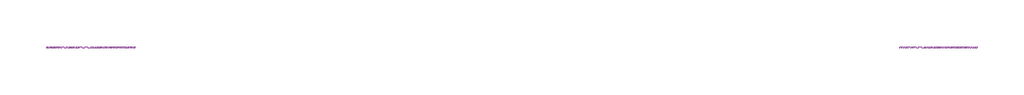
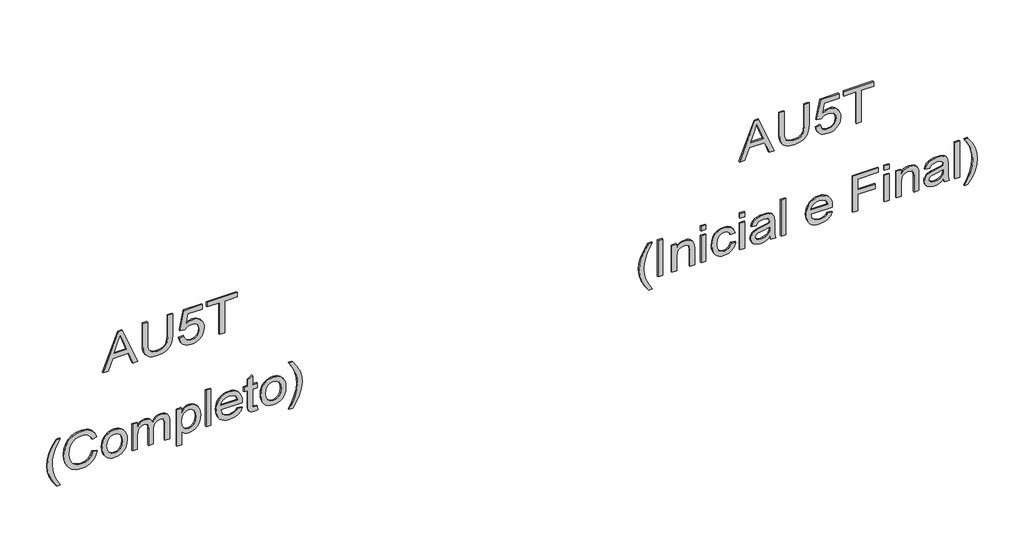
# One storey, part 6 of 14: 2 proxies.
"""IFC4 building model written with IfcOpenShell, lengths in millimetres."""

from ifc_helpers import new_model, si_unit, frame, origin, place, context, project, spatial, polyline, outline, extrude, element, save

model = new_model("IFC4")

# Units and contexts
model_context = context("Model", 3, world=origin())
ifc_project = project(units=[si_unit("LENGTHUNIT", "METRE", prefix="MILLI")], contexts=[model_context])

# Site, building, storey
site = spatial("IfcSite", under=ifc_project)
building = spatial("IfcBuilding", under=site)
storey = spatial("IfcBuildingStorey", under=building, Name="04 - Marelli - Planta Baixa - Painéis de Vidro", Elevation=36000.0)

# Proxies
placement = place(None, origin())
element("IfcBuildingElementProxy", 1, Name="300mm Arial", ObjectType="300mm Arial", at=placement, inside=storey, context=model_context, shape_type="SweptSolid", body=[
    extrude(outline(polyline([(42065.9244535, 43310.1721595), (42065.9244535, 43349.9769914), (42160.1022443, 43384.4107462), (42160.1022443, 43508.5341313), (42065.9244535, 43543.0414625), (42065.9244535, 43582.8462944), (42367.293384, 43462.5488819), (42367.293384, 43430.469572), (42065.9244535, 43310.1721595)]), holes=[polyline([(42197.7733606, 43398.2431092), (42278.3395176, 43427.7472452), (42329.6222677, 43446.5092269), (42271.8647944, 43467.6256535), (42197.7733606, 43494.7753447), (42197.7733606, 43398.2431092)])]), frame((0.0, 8778.3159498, 0.0), z_axis=(0.0, 1.0, 0.0), x_axis=(0.0, 0.0, 1.0)), (0.0, 0.0, 1.0), 10.0),
    extrude(outline(polyline([(42367.293384, 43820.8659452), (42194.7567282, 43820.8659452), (42147.5942565, 43816.1018734), (42130.8556257, 43810.1467836), (42118.6787316, 43801.8096579), (42110.0197092, 43790.676629), (42103.8346931, 43776.3338297), (42098.8866803, 43738.0189199), (42101.3882779, 43713.8490728), (42108.8930706, 43693.7259277), (42121.0055853, 43678.293278), (42137.3303488, 43668.1949172), (42160.9023876, 43662.621505), (42194.7567282, 43660.7637009), (42367.293384, 43660.7637009), (42367.293384, 43623.0925846), (42193.4323531, 43623.0925846), (42150.6568741, 43625.9528671), (42117.9797559, 43634.5337147), (42093.6167707, 43649.8008175), (42075.783691, 43672.7198658), (42064.8575957, 43703.3000566), (42061.215564, 43741.5505871), (42065.4002217, 43780.6564432), (42077.9541948, 43811.4481662), (42097.176029, 43833.9809384), (42121.3642702, 43848.3099421), (42152.7170132, 43855.9802817), (42193.4323531, 43858.5370615), (42367.293384, 43858.5370615), (42367.293384, 43820.8659452)])), frame((0.0, 8778.3159498, 0.0), z_axis=(0.0, 1.0, 0.0), x_axis=(0.0, 0.0, 1.0)), (0.0, 0.0, 1.0), 10.0),
    extrude(outline(polyline([(42145.9755757, 43910.3348465), (42111.4222593, 43919.5226993), (42096.9805917, 43928.2484004), (42084.4289179, 43939.7286179), (42074.2730756, 43953.526492), (42067.0189025, 43969.2051627), (42061.215564, 44006.2048944), (42063.4734397, 44029.6941598), (42070.247067, 44050.571463), (42081.5364457, 44068.8368041), (42097.3415759, 44084.490183), (42112.7742256, 44094.8230685), (42129.5680387, 44102.203701), (42167.239155, 44108.1082071), (42187.5002559, 44106.4688329), (42205.8299763, 44101.5507105), (42222.2283162, 44093.3538398), (42236.6952757, 44081.8782208), (42248.5088863, 44068.0159674), (42256.9471795, 44052.6591933), (42262.0101555, 44035.8078987), (42263.6978141, 44017.4620835), (42258.2531606, 43989.2639285), (42241.9192, 43962.3533606), (42324.9133781, 43978.466592), (42324.9133781, 44093.9815385), (42362.5844944, 44093.9815385), (42362.5844944, 43948.0059628), (42207.1911397, 43915.043736), (42202.4822501, 43952.7148523), (42219.4783983, 43973.868067), (42224.389623, 43988.6661203), (42226.0266978, 44006.9406584), (42221.9248136, 44034.8353107), (42209.6191609, 44054.6549532), (42190.2317797, 44066.4915564), (42164.8847102, 44070.4370908), (42137.9649452, 44066.2248419), (42116.9496863, 44053.5880954), (42103.4024318, 44033.3545856), (42098.8866803, 44006.3520472), (42102.1332389, 43984.1503688), (42111.8729147, 43966.9886737), (42128.0689196, 43954.9221443), (42150.6844652, 43948.0059628), (42145.9755757, 43910.3348465)])), frame((0.0, 8778.3159498, 0.0), z_axis=(0.0, 1.0, 0.0), x_axis=(0.0, 0.0, 1.0)), (0.0, 0.0, 1.0), 10.0),
    extrude(outline(polyline([(42065.9244535, 44230.5393351), (42065.9244535, 44268.2104514), (42329.6222677, 44268.2104514), (42329.6222677, 44367.0971317), (42367.293384, 44367.0971317), (42367.293384, 44131.6526548), (42329.6222677, 44131.6526548), (42329.6222677, 44230.5393351), (42065.9244535, 44230.5393351)])), frame((0.0, 8778.3159498, 0.0), z_axis=(0.0, 1.0, 0.0), x_axis=(0.0, 0.0, 1.0)), (0.0, 0.0, 1.0), 10.0),
    extrude(outline(polyline([(41249.3155348, 42945.0124911), (41249.3155348, 42973.2658283), (41297.5540614, 42944.4238799), (41345.8109821, 42923.8224882), (41394.0862969, 42911.4616532), (41442.3800058, 42907.3413748), (41480.2534572, 42909.7142137), (41517.9429677, 42916.8327303), (41575.7740173, 42938.0227332), (41635.4444769, 42973.2658283), (41635.4444769, 42945.0124911), (41584.934279, 42910.321219), (41534.2033518, 42886.0042191), (41489.4137189, 42873.7537486), (41442.600735, 42869.6702585), (41389.2210575, 42875.1333061), (41337.68079, 42891.522449), (41290.2791949, 42915.8210548), (41249.3155348, 42945.0124911)])), frame((0.0, 8778.3159498, 0.0), z_axis=(0.0, 1.0, 0.0), x_axis=(0.0, 0.0, 1.0)), (0.0, 0.0, 1.0), 10.0),
    extrude(outline(polyline([(41441.2027835, 43227.5458634), (41408.9395325, 43215.3597723), (41385.7261786, 43195.576918), (41371.7098746, 43169.3745229), (41367.0377732, 43137.9298094), (41370.4682728, 43110.9548621), (41380.7597717, 43085.9480835), (41397.9858461, 43065.0891743), (41422.2200725, 43050.5578355), (41452.3128197, 43042.0321703), (41487.1144565, 43039.1902819), (41515.5333406, 43041.5907119), (41543.1060961, 43048.792002), (41567.4966724, 43061.9161921), (41586.3690188, 43082.0853225), (41598.4539423, 43108.6647967), (41602.4822501, 43141.0200181), (41598.8494154, 43169.0894144), (41587.9509113, 43191.9348863), (41569.1061561, 43209.777163), (41541.6345681, 43222.8369739), (41550.6108888, 43260.5080902), (41588.4291579, 43243.8706269), (41603.751443, 43232.0685127), (41616.6824952, 43217.9441433), (41626.9510013, 43201.7642333), (41634.2856486, 43183.7954971), (41640.1533665, 43142.4915461), (41635.6192209, 43104.6364888), (41622.0167841, 43070.0923695), (41599.6771499, 43040.9653125), (41568.9314122, 43019.3614423), (41530.9843844, 43005.9797348), (41487.0408801, 43001.5191656), (41445.3782441, 43005.4647), (41406.4747231, 43017.3013032), (41373.3837376, 43036.6886843), (41349.1587083, 43063.2865526), (41334.3146698, 43097.9870218), (41329.3666569, 43141.6822057), (41331.0014325, 43164.1046133), (41335.9057594, 43184.7243992), (41344.0796375, 43203.5415632), (41355.5230668, 43220.5561055), (41370.0796975, 43235.4323337), (41387.5931797, 43247.8345554), (41408.0635135, 43257.7627708), (41431.4906988, 43265.2169797), (41441.2027835, 43227.5458634)])), frame((0.0, 8778.3159498, 0.0), z_axis=(0.0, 1.0, 0.0), x_axis=(0.0, 0.0, 1.0)), (0.0, 0.0, 1.0), 10.0),
    extrude(outline(polyline([(41444.7344506, 43302.888096), (41418.4124939, 43304.596448), (41395.3646869, 43309.7215041), (41375.5910296, 43318.2632642), (41359.0915221, 43330.2217283), (41346.0868936, 43344.9485044), (41336.7978732, 43361.7952005), (41331.224461, 43380.7618166), (41329.3666569, 43401.8483527), (41332.7419742, 43428.4370239), (41342.8679261, 43452.8735855), (41359.1007192, 43473.447386), (41380.7965599, 43488.4477744), (41409.767267, 43497.6080361), (41447.8246594, 43500.6614566), (41472.7049786, 43498.9347105), (41494.7388108, 43493.7544722), (41513.9261561, 43485.1207416), (41530.2670145, 43473.0335188), (41543.3199275, 43458.2239692), (41552.6434368, 43441.4232584), (41558.2375424, 43422.6313862), (41560.1022443, 43401.8483527), (41558.5709355, 43383.0219916), (41553.9770091, 43365.6855526), (41546.3204651, 43349.8390357), (41535.6013034, 43335.4824408), (41518.830483, 43321.222415), (41498.095734, 43311.0366822), (41473.3970566, 43304.9252426), (41444.7344506, 43302.888096)]), holes=[polyline([(41444.808027, 43340.5592123), (41478.8830968, 43344.918614), (41503.1173232, 43357.9968189), (41517.6026768, 43377.6785056), (41522.431128, 43401.8483527), (41517.5842827, 43425.7698795), (41503.0437468, 43445.4423692), (41479.0854319, 43458.6033475), (41445.9852494, 43462.9903403), (41411.1468245, 43458.6309387), (41386.535519, 43445.5527338), (41371.9122097, 43425.9078352), (41367.0377732, 43401.8483527), (41371.8846185, 43377.6785056), (41386.4251544, 43357.9968189), (41410.7145631, 43344.918614), (41444.808027, 43340.5592123)])]), frame((0.0, 8778.3159498, 0.0), z_axis=(0.0, 1.0, 0.0), x_axis=(0.0, 0.0, 1.0)), (0.0, 0.0, 1.0), 10.0),
    extrude(outline(polyline([(41334.0755465, 43543.0414625), (41334.0755465, 43580.7125788), (41445.6909438, 43580.7125788), (41471.6082304, 43582.1473186), (41490.6461236, 43586.4515379), (41504.368122, 43593.9563306), (41514.3377241, 43604.9927905), (41520.407777, 43618.365301), (41522.431128, 43632.8782457), (41519.3961015, 43649.9571673), (41510.2910222, 43661.4626767), (41495.0974958, 43668.0017792), (41473.7971282, 43670.18148), (41334.0755465, 43670.18148), (41334.0755465, 43707.8525963), (41459.008272, 43707.8525963), (41487.7214617, 43711.5406133), (41507.3479662, 43722.6046643), (41518.6603375, 43739.2421276), (41522.431128, 43759.6503812), (41520.9596, 43771.2110729), (41516.5450161, 43781.171478), (41509.7300021, 43788.915394), (41501.0571841, 43793.8266186), (41469.6032735, 43797.3214975), (41334.0755465, 43797.3214975), (41334.0755465, 43834.9926138), (41485.7900813, 43834.9926138), (41518.7615051, 43830.6791975), (41541.8920855, 43817.7389483), (41555.5497046, 43796.7972657), (41560.1022443, 43768.4795491), (41557.366122, 43748.9542122), (41549.1577549, 43731.3602558), (41535.4771432, 43715.6976799), (41516.3242869, 43701.9664844), (41534.7643719, 43693.7627159), (41548.5875379, 43681.2179399), (41557.2235677, 43664.4241268), (41560.1022443, 43643.4732472), (41557.27875, 43623.9203191), (41548.808267, 43606.6114712), (41535.702471, 43592.0433442), (41518.9730372, 43580.7125788), (41555.3933548, 43580.7125788), (41555.3933548, 43543.0414625), (41334.0755465, 43543.0414625)])), frame((0.0, 8778.3159498, 0.0), z_axis=(0.0, 1.0, 0.0), x_axis=(0.0, 0.0, 1.0)), (0.0, 0.0, 1.0), 10.0),
    extrude(outline(polyline([(41249.3155348, 43891.4992883), (41249.3155348, 43929.1704046), (41363.5061061, 43929.1704046), (41349.9956398, 43939.8113913), (41339.0419534, 43953.0459461), (41331.785481, 43968.5061869), (41329.3666569, 43985.8242319), (41332.9810975, 44010.2423993), (41343.8244193, 44033.4649502), (41361.4459669, 44053.4041544), (41385.3950848, 44067.9722814), (41414.2094421, 44076.8842227), (41446.4267078, 44079.8548698), (41476.7217901, 44077.2245136), (41504.4784866, 44069.3334448), (41527.9861461, 44056.2736339), (41545.5341173, 44038.1370516), (41556.4602125, 44015.8617968), (41560.1022443, 43990.3859686), (41557.4994792, 43971.2561049), (41549.6911838, 43955.2164499), (41536.6773583, 43941.4576633), (41518.4580024, 43929.1704046), (41555.3933548, 43929.1704046), (41555.3933548, 43891.4992883), (41249.3155348, 43891.4992883)]), holes=[polyline([(41442.968617, 43929.1704046), (41477.1356573, 43933.5206092), (41502.0872537, 43946.571223), (41517.3451594, 43965.2688254), (41522.431128, 43986.5599959), (41517.6486621, 44007.7683929), (41503.3012642, 44025.7762165), (41479.3521464, 44038.0818693), (41445.7645202, 44042.1837535), (41410.7237602, 44037.9807017), (41386.2412134, 44025.3715464), (41371.8386333, 44006.876279), (41367.0377732, 43985.0148915), (41371.6730864, 43963.5029918), (41385.5790258, 43945.467577), (41409.1970499, 43933.2446977), (41442.968617, 43929.1704046)])]), frame((0.0, 8778.3159498, 0.0), z_axis=(0.0, 1.0, 0.0), x_axis=(0.0, 0.0, 1.0)), (0.0, 0.0, 1.0), 10.0),
    extrude(outline(polyline([(44159.905992, 8778.3159498), (44122.2348757, 8778.3159498), (44122.2348757, 8788.3159498), (44159.905992, 8788.3159498), (44159.905992, 8778.3159498)])), frame((0.0, 0.0, 41334.0755465), z_axis=(0.0, 0.0, 1.0), x_axis=(1.0, 0.0, 0.0)), (0.0, 0.0, 1.0), 301.3689304),
    extrude(outline(polyline([(41400.0, 44371.3645628), (41385.1191733, 44360.8063496), (41374.9104479, 44347.0843511), (41369.0059419, 44330.1985676), (41367.0377732, 44310.1489988), (41371.2868103, 44283.4867512), (41384.0339214, 44261.6253637), (41404.7640718, 44246.4778225), (41432.9622268, 44239.9571141), (41432.9622268, 44409.2564083), (41443.1157698, 44409.4771375), (41469.3687487, 44407.6906106), (41492.5039277, 44402.3310298), (41512.5213067, 44393.3983951), (41529.4208859, 44380.8927065), (41542.8439802, 44365.5727207), (41552.4319047, 44348.1971942), (41558.1846594, 44328.766127), (41560.1022443, 44307.2795193), (41558.1800609, 44285.0778408), (41552.4135106, 44265.0466662), (41542.8025935, 44247.1859953), (41529.3473095, 44231.4958282), (41512.4109422, 44218.7165274), (41492.3567749, 44209.5884554), (41469.1848077, 44204.1116122), (41442.8950406, 44202.2859978), (41417.467497, 44204.0932181), (41395.0427901, 44209.514879), (41375.62092, 44218.5509805), (41359.2018867, 44231.2015227), (41346.1489737, 44246.9330765), (41336.8254644, 44265.2122131), (41331.2313588, 44286.0389326), (41329.3666569, 44309.4132348), (41333.6892704, 44345.0701972), (41346.6571107, 44373.7557958), (41367.4608375, 44394.991784), (41395.2911105, 44408.2999151), (41400.0, 44371.3645628)]), holes=[polyline([(41470.6333431, 44239.9571141), (41491.8693312, 44246.1467287), (41508.3412476, 44260.7424469), (41518.9086579, 44281.7393117), (41522.431128, 44307.1323665), (41518.0165441, 44334.7603043), (41504.7727922, 44356.7228594), (41490.535759, 44366.7108556), (41470.6333431, 44371.8060212), (41470.6333431, 44239.9571141)])]), frame((0.0, 8778.3159498, 0.0), z_axis=(0.0, 1.0, 0.0), x_axis=(0.0, 0.0, 1.0)), (0.0, 0.0, 1.0), 10.0),
    extrude(outline(polyline([(41365.4926689, 44527.199376), (41367.0377732, 44510.791839), (41369.576159, 44497.9527574), (41376.4555523, 44491.5148224), (41395.8797217, 44489.5282597), (41517.7222385, 44489.5282597), (41517.7222385, 44527.199376), (41555.3933548, 44527.199376), (41555.3933548, 44489.5282597), (41631.3241986, 44489.5282597), (41609.1777025, 44451.8571434), (41555.3933548, 44451.8571434), (41555.3933548, 44423.6038061), (41517.7222385, 44423.6038061), (41517.7222385, 44451.8571434), (41394.7760757, 44451.8571434), (41367.7919313, 44452.9975775), (41352.0281878, 44456.4188801), (41342.849532, 44462.6360858), (41335.6206508, 44472.1642295), (41330.9301554, 44485.6471046), (41329.3666569, 44503.7285047), (41332.9719005, 44531.9082655), (41365.4926689, 44527.199376)])), frame((0.0, 8778.3159498, 0.0), z_axis=(0.0, 1.0, 0.0), x_axis=(0.0, 0.0, 1.0)), (0.0, 0.0, 1.0), 10.0),
    extrude(outline(polyline([(41444.7344506, 44555.4527132), (41418.4124939, 44557.1610652), (41395.3646869, 44562.2861213), (41375.5910296, 44570.8278813), (41359.0915221, 44582.7863454), (41346.0868936, 44597.5131216), (41336.7978732, 44614.3598177), (41331.224461, 44633.3264338), (41329.3666569, 44654.4129699), (41332.7419742, 44681.0016411), (41342.8679261, 44705.4382026), (41359.1007192, 44726.0120032), (41380.7965599, 44741.0123916), (41409.767267, 44750.1726532), (41447.8246594, 44753.2260738), (41472.7049786, 44751.4993277), (41494.7388108, 44746.3190893), (41513.9261561, 44737.6853588), (41530.2670145, 44725.598136), (41543.3199275, 44710.7885864), (41552.6434368, 44693.9878755), (41558.2375424, 44675.1960034), (41560.1022443, 44654.4129699), (41558.5709355, 44635.5866088), (41553.9770091, 44618.2501698), (41546.3204651, 44602.4036528), (41535.6013034, 44588.047058), (41518.830483, 44573.7870321), (41498.095734, 44563.6012994), (41473.3970566, 44557.4898597), (41444.7344506, 44555.4527132)]), holes=[polyline([(41444.808027, 44593.1238295), (41478.8830968, 44597.4832312), (41503.1173232, 44610.5614361), (41517.6026768, 44630.2431228), (41522.431128, 44654.4129699), (41517.5842827, 44678.3344966), (41503.0437468, 44698.0069863), (41479.0854319, 44711.1679647), (41445.9852494, 44715.5549575), (41411.1468245, 44711.1955559), (41386.535519, 44698.1173509), (41371.9122097, 44678.4724524), (41367.0377732, 44654.4129699), (41371.8846185, 44630.2431228), (41386.4251544, 44610.5614361), (41410.7145631, 44597.4832312), (41444.808027, 44593.1238295)])]), frame((0.0, 8778.3159498, 0.0), z_axis=(0.0, 1.0, 0.0), x_axis=(0.0, 0.0, 1.0)), (0.0, 0.0, 1.0), 10.0),
    extrude(outline(polyline([(41249.3155348, 44805.0238587), (41290.2791949, 44834.0773393), (41337.68079, 44858.4035362), (41389.2210575, 44874.8754526), (41442.600735, 44880.3660913), (41489.4137189, 44876.2826012), (41534.2033518, 44864.0321308), (41584.934279, 44839.7151309), (41635.4444769, 44805.0238587), (41635.4444769, 44776.7705215), (41575.1854061, 44812.2343458), (41546.8400984, 44824.2089048), (41517.2807801, 44833.2036196), (41479.9775458, 44840.3221362), (41442.3800058, 44842.694975), (41394.0862969, 44838.5746967), (41345.8109821, 44826.2138617), (41297.5540614, 44805.6124699), (41249.3155348, 44776.7705215), (41249.3155348, 44805.0238587)])), frame((0.0, 8778.3159498, 0.0), z_axis=(0.0, 1.0, 0.0), x_axis=(0.0, 0.0, 1.0)), (0.0, 0.0, 1.0), 10.0),
])
element("IfcBuildingElementProxy", 2, Name="300mm Arial", ObjectType="300mm Arial", at=placement, inside=storey, context=model_context, shape_type="SweptSolid", body=[
    extrude(outline(polyline([(42065.9244535, 48333.7166072), (42065.9244535, 48373.5214391), (42160.1022443, 48407.9551938), (42160.1022443, 48532.078579), (42065.9244535, 48566.5859102), (42065.9244535, 48606.390742), (42367.293384, 48486.0933296), (42367.293384, 48454.0140196), (42065.9244535, 48333.7166072)]), holes=[polyline([(42197.7733606, 48421.7875569), (42278.3395176, 48451.2916929), (42329.6222677, 48470.0536746), (42271.8647944, 48491.1701012), (42197.7733606, 48518.3197924), (42197.7733606, 48421.7875569)])]), frame((0.0, 8778.3159498, 0.0), z_axis=(0.0, 1.0, 0.0), x_axis=(0.0, 0.0, 1.0)), (0.0, 0.0, 1.0), 10.0),
    extrude(outline(polyline([(42367.293384, 48844.4103929), (42194.7567282, 48844.4103929), (42147.5942565, 48839.6463211), (42130.8556257, 48833.6912313), (42118.6787316, 48825.3541056), (42110.0197092, 48814.2210767), (42103.8346931, 48799.8782774), (42098.8866803, 48761.5633676), (42101.3882779, 48737.3935205), (42108.8930706, 48717.2703754), (42121.0055853, 48701.8377257), (42137.3303488, 48691.7393649), (42160.9023876, 48686.1659527), (42194.7567282, 48684.3081486), (42367.293384, 48684.3081486), (42367.293384, 48646.6370323), (42193.4323531, 48646.6370323), (42150.6568741, 48649.4973148), (42117.9797559, 48658.0781624), (42093.6167707, 48673.3452652), (42075.783691, 48696.2643135), (42064.8575957, 48726.8445043), (42061.215564, 48765.0950348), (42065.4002217, 48804.2008909), (42077.9541948, 48834.9926138), (42097.176029, 48857.5253861), (42121.3642702, 48871.8543898), (42152.7170132, 48879.5247294), (42193.4323531, 48882.0815092), (42367.293384, 48882.0815092), (42367.293384, 48844.4103929)])), frame((0.0, 8778.3159498, 0.0), z_axis=(0.0, 1.0, 0.0), x_axis=(0.0, 0.0, 1.0)), (0.0, 0.0, 1.0), 10.0),
    extrude(outline(polyline([(42145.9755757, 48933.8792942), (42111.4222593, 48943.067147), (42096.9805917, 48951.7928481), (42084.4289179, 48963.2730656), (42074.2730756, 48977.0709396), (42067.0189025, 48992.7496104), (42061.215564, 49029.7493421), (42063.4734397, 49053.2386075), (42070.247067, 49074.1159107), (42081.5364457, 49092.3812518), (42097.3415759, 49108.0346307), (42112.7742256, 49118.3675162), (42129.5680387, 49125.7481487), (42167.239155, 49131.6526548), (42187.5002559, 49130.0132806), (42205.8299763, 49125.0951582), (42222.2283162, 49116.8982875), (42236.6952757, 49105.4226685), (42248.5088863, 49091.5604151), (42256.9471795, 49076.203641), (42262.0101555, 49059.3523464), (42263.6978141, 49041.0065311), (42258.2531606, 49012.8083762), (42241.9192, 48985.8978083), (42324.9133781, 49002.0110397), (42324.9133781, 49117.5259861), (42362.5844944, 49117.5259861), (42362.5844944, 48971.5504105), (42207.1911397, 48938.5881837), (42202.4822501, 48976.2593), (42219.4783983, 48997.4125147), (42224.389623, 49012.210568), (42226.0266978, 49030.4851061), (42221.9248136, 49058.3797584), (42209.6191609, 49078.1994009), (42190.2317797, 49090.0360041), (42164.8847102, 49093.9815385), (42137.9649452, 49089.7692896), (42116.9496863, 49077.1325431), (42103.4024318, 49056.8990333), (42098.8866803, 49029.8964949), (42102.1332389, 49007.6948165), (42111.8729147, 48990.5331214), (42128.0689196, 48978.466592), (42150.6844652, 48971.5504105), (42145.9755757, 48933.8792942)])), frame((0.0, 8778.3159498, 0.0), z_axis=(0.0, 1.0, 0.0), x_axis=(0.0, 0.0, 1.0)), (0.0, 0.0, 1.0), 10.0),
    extrude(outline(polyline([(42065.9244535, 49254.0837828), (42065.9244535, 49291.7548991), (42329.6222677, 49291.7548991), (42329.6222677, 49390.6415794), (42367.293384, 49390.6415794), (42367.293384, 49155.1971024), (42329.6222677, 49155.1971024), (42329.6222677, 49254.0837828), (42065.9244535, 49254.0837828)])), frame((0.0, 8778.3159498, 0.0), z_axis=(0.0, 1.0, 0.0), x_axis=(0.0, 0.0, 1.0)), (0.0, 0.0, 1.0), 10.0),
    extrude(outline(polyline([(41249.3155348, 47615.3902234), (41249.3155348, 47643.6435607), (41297.5540614, 47614.8016122), (41345.8109821, 47594.2002205), (41394.0862969, 47581.8393855), (41442.3800058, 47577.7191071), (41480.2534572, 47580.091946), (41517.9429677, 47587.2104626), (41575.7740173, 47608.4004655), (41635.4444769, 47643.6435607), (41635.4444769, 47615.3902234), (41584.934279, 47580.6989513), (41534.2033518, 47556.3819514), (41489.4137189, 47544.131481), (41442.600735, 47540.0479908), (41389.2210575, 47545.5110385), (41337.68079, 47561.9001813), (41290.2791949, 47586.1987871), (41249.3155348, 47615.3902234)])), frame((0.0, 8778.3159498, 0.0), z_axis=(0.0, 1.0, 0.0), x_axis=(0.0, 0.0, 1.0)), (0.0, 0.0, 1.0), 10.0),
    extrude(outline(polyline([(47728.4035724, 8778.3159498), (47690.732456, 8778.3159498), (47690.732456, 8788.3159498), (47728.4035724, 8788.3159498), (47728.4035724, 8778.3159498)])), frame((0.0, 0.0, 41334.0755465), z_axis=(0.0, 0.0, 1.0), x_axis=(1.0, 0.0, 0.0)), (0.0, 0.0, 1.0), 301.3689304),
    extrude(outline(polyline([(41334.0755465, 47799.0369154), (41334.0755465, 47836.7080317), (41451.5034793, 47836.7080317), (41486.2131456, 47841.003054), (41498.5877762, 47846.3718319), (41507.6422718, 47853.8881209), (41518.7339139, 47872.6960879), (41522.431128, 47894.7598106), (41520.7848561, 47908.6565529), (41515.8460403, 47920.6219148), (41508.1481095, 47929.9569205), (41498.2244927, 47935.962594), (41464.8943839, 47940.3036016), (41334.0755465, 47940.3036016), (41334.0755465, 47977.9747179), (41469.9711555, 47977.9747179), (41506.391473, 47975.9881551), (41534.0929872, 47964.6941779), (41544.6328064, 47954.5958171), (41552.9285454, 47940.4139662), (41558.3088196, 47923.4086209), (41560.1022443, 47904.8397772), (41557.8765582, 47883.8613065), (41551.1995, 47865.513192), (41540.0710697, 47849.7954337), (41524.4912672, 47836.7080317), (41555.3933548, 47836.7080317), (41555.3933548, 47799.0369154), (41334.0755465, 47799.0369154)])), frame((0.0, 8778.3159498, 0.0), z_axis=(0.0, 1.0, 0.0), x_axis=(0.0, 0.0, 1.0)), (0.0, 0.0, 1.0), 10.0),
    extrude(outline(polyline([(48067.4436191, 8778.3159498), (48029.7725028, 8778.3159498), (48029.7725028, 8788.3159498), (48067.4436191, 8788.3159498), (48067.4436191, 8778.3159498)])), frame((0.0, 0.0, 41597.7733606), z_axis=(0.0, 0.0, 1.0), x_axis=(1.0, 0.0, 0.0)), (0.0, 0.0, 1.0), 37.6711163),
    extrude(outline(polyline([(48067.4436191, 8778.3159498), (48029.7725028, 8778.3159498), (48029.7725028, 8788.3159498), (48067.4436191, 8788.3159498), (48067.4436191, 8778.3159498)])), frame((0.0, 0.0, 41334.0755465), z_axis=(0.0, 0.0, 1.0), x_axis=(1.0, 0.0, 0.0)), (0.0, 0.0, 1.0), 221.3178083),
    extrude(outline(polyline([(41414.1266686, 48265.2169797), (41393.2493654, 48258.7882419), (41378.5892679, 48247.1539738), (41369.9256469, 48231.160304), (41367.0377732, 48211.6533612), (41371.6638893, 48187.6214699), (41385.5422376, 48168.647956), (41409.6477053, 48156.3147121), (41444.9551798, 48152.2036308), (41479.7936048, 48156.4066826), (41503.816299, 48169.015838), (41517.7774208, 48188.3388398), (41522.431128, 48212.6834308), (41520.0674862, 48229.1737412), (41512.9765607, 48243.0336954), (41501.1951398, 48253.6746821), (41484.7600117, 48260.5080902), (41489.4689012, 48298.1792065), (41519.4512838, 48287.9244959), (41541.7081445, 48269.6683519), (41555.5037194, 48244.2201148), (41560.1022443, 48212.3891252), (41556.7545181, 48185.7452717), (41546.7113397, 48161.1431633), (41529.9635118, 48140.5785598), (41506.5018376, 48126.0472209), (41477.448357, 48117.4111911), (41443.9251102, 48114.5325145), (41417.8675687, 48116.2178739), (41395.024396, 48121.2739521), (41375.3955923, 48129.700749), (41358.9811575, 48141.4982647), (41346.0248135, 48156.0732895), (41336.7702821, 48172.8326137), (41331.2175632, 48191.7762372), (41329.3666569, 48212.90416), (41334.6733547, 48245.535293), (41350.593448, 48272.648196), (41375.9129264, 48292.3850651), (41409.4177791, 48302.888096), (41414.1266686, 48265.2169797)])), frame((0.0, 8778.3159498, 0.0), z_axis=(0.0, 1.0, 0.0), x_axis=(0.0, 0.0, 1.0)), (0.0, 0.0, 1.0), 10.0),
    extrude(outline(polyline([(48373.5214391, 8778.3159498), (48335.8503228, 8778.3159498), (48335.8503228, 8788.3159498), (48373.5214391, 8788.3159498), (48373.5214391, 8778.3159498)])), frame((0.0, 0.0, 41334.0755465), z_axis=(0.0, 0.0, 1.0), x_axis=(1.0, 0.0, 0.0)), (0.0, 0.0, 1.0), 221.3178083),
    extrude(outline(polyline([(48373.5214391, 8778.3159498), (48335.8503228, 8778.3159498), (48335.8503228, 8788.3159498), (48373.5214391, 8788.3159498), (48373.5214391, 8778.3159498)])), frame((0.0, 0.0, 41597.7733606), z_axis=(0.0, 0.0, 1.0), x_axis=(1.0, 0.0, 0.0)), (0.0, 0.0, 1.0), 37.6711163),
    extrude(outline(polyline([(41362.3288837, 48571.2947997), (41334.0755465, 48580.7125788), (41334.0755465, 48618.3836951), (41365.7501862, 48610.8789024), (41431.1963932, 48608.965916), (41478.0645594, 48608.965916), (41511.0267861, 48607.126506), (41525.1442577, 48602.5831634), (41536.5945848, 48595.5750114), (41545.856014, 48585.0076011), (41553.406792, 48569.7864835), (41558.4283812, 48549.598959), (41560.1022443, 48524.1323279), (41558.207652, 48497.5804449), (41552.5238752, 48474.4314704), (41543.3452194, 48455.5039417), (41530.9659903, 48441.6163964), (41514.7791825, 48431.8583265), (41494.1777908, 48425.319224), (41489.4689012, 48462.9903403), (41505.1314772, 48470.4767389), (41515.1838527, 48481.1637109), (41520.6193092, 48496.8354839), (41522.431128, 48519.2762856), (41519.7088012, 48543.5197091), (41511.5418209, 48560.9205274), (41500.5421493, 48568.7012316), (41483.7299421, 48571.2947997), (41475.3422326, 48571.0740705), (41468.3524747, 48544.2554731), (41462.3927864, 48505.7382282), (41456.7274037, 48473.1438834), (41444.3665686, 48446.7667443), (41434.8752131, 48436.1625458), (41422.7351073, 48427.8208216), (41408.5532564, 48422.4129563), (41392.9366657, 48420.6103345), (41367.6079903, 48425.3836034), (41347.2457219, 48439.70341), (41333.8364232, 48462.925961), (41329.3666569, 48494.4074627), (41331.224461, 48515.2755689), (41336.7978732, 48534.7641176), (41346.896234, 48553.2961731), (41362.3288837, 48571.2947997)]), holes=[polyline([(41437.6711163, 48571.2947997), (41427.0025384, 48571.0740705), (41410.0799667, 48569.5841484), (41397.8662844, 48565.1143822), (41386.0112871, 48555.0344155), (41376.0508821, 48540.5398649), (41369.2910505, 48522.6607999), (41367.0377732, 48502.4272902), (41369.0795183, 48483.3434117), (41375.2047535, 48469.5018516), (41384.3834093, 48461.086551), (41395.5854161, 48458.2814508), (41410.0799667, 48463.4317987), (41420.0127805, 48478.1102903), (41426.1196217, 48510.5206941), (41437.6711163, 48571.2947997)])]), frame((0.0, 8778.3159498, 0.0), z_axis=(0.0, 1.0, 0.0), x_axis=(0.0, 0.0, 1.0)), (0.0, 0.0, 1.0), 10.0),
    extrude(outline(polyline([(48698.4348172, 8778.3159498), (48660.7637009, 8778.3159498), (48660.7637009, 8788.3159498), (48698.4348172, 8788.3159498), (48698.4348172, 8778.3159498)])), frame((0.0, 0.0, 41334.0755465), z_axis=(0.0, 0.0, 1.0), x_axis=(1.0, 0.0, 0.0)), (0.0, 0.0, 1.0), 301.3689304),
    extrude(outline(polyline([(41400.0, 49027.6156265), (41385.1191733, 49017.0574133), (41374.9104479, 49003.3354148), (41369.0059419, 48986.4496313), (41367.0377732, 48966.4000625), (41371.2868103, 48939.7378149), (41384.0339214, 48917.8764274), (41404.7640718, 48902.7288862), (41432.9622268, 48896.2081778), (41432.9622268, 49065.507472), (41443.1157698, 49065.7282012), (41469.3687487, 49063.9416743), (41492.5039277, 49058.5820935), (41512.5213067, 49049.6494588), (41529.4208859, 49037.1437702), (41542.8439802, 49021.8237844), (41552.4319047, 49004.4482579), (41558.1846594, 48985.0171907), (41560.1022443, 48963.530583), (41558.1800609, 48941.3289046), (41552.4135106, 48921.2977299), (41542.8025935, 48903.437059), (41529.3473095, 48887.746892), (41512.4109422, 48874.9675911), (41492.3567749, 48865.8395191), (41469.1848077, 48860.3626759), (41442.8950406, 48858.5370615), (41417.467497, 48860.3442818), (41395.0427901, 48865.7659427), (41375.62092, 48874.8020443), (41359.2018867, 48887.4525864), (41346.1489737, 48903.1841402), (41336.8254644, 48921.4632768), (41331.2313588, 48942.2899963), (41329.3666569, 48965.6642985), (41333.6892704, 49001.3212609), (41346.6571107, 49030.0068595), (41367.4608375, 49051.2428477), (41395.2911105, 49064.5509788), (41400.0, 49027.6156265)]), holes=[polyline([(41470.6333431, 48896.2081778), (41491.8693312, 48902.3977924), (41508.3412476, 48916.9935106), (41518.9086579, 48937.9903754), (41522.431128, 48963.3834302), (41518.0165441, 48991.011368), (41504.7727922, 49012.9739231), (41490.535759, 49022.9619193), (41470.6333431, 49028.0570849), (41470.6333431, 48896.2081778)])]), frame((0.0, 8778.3159498, 0.0), z_axis=(0.0, 1.0, 0.0), x_axis=(0.0, 0.0, 1.0)), (0.0, 0.0, 1.0), 10.0),
    extrude(outline(polyline([(41334.0755465, 49225.8304455), (41334.0755465, 49263.5015618), (41470.6333431, 49263.5015618), (41470.6333431, 49404.768248), (41508.3044594, 49404.768248), (41508.3044594, 49263.5015618), (41597.7733606, 49263.5015618), (41597.7733606, 49428.3126957), (41635.4444769, 49428.3126957), (41635.4444769, 49225.8304455), (41334.0755465, 49225.8304455)])), frame((0.0, 8778.3159498, 0.0), z_axis=(0.0, 1.0, 0.0), x_axis=(0.0, 0.0, 1.0)), (0.0, 0.0, 1.0), 10.0),
    extrude(outline(polyline([(49513.0727074, 8778.3159498), (49475.4015911, 8778.3159498), (49475.4015911, 8788.3159498), (49513.0727074, 8788.3159498), (49513.0727074, 8778.3159498)])), frame((0.0, 0.0, 41597.7733606), z_axis=(0.0, 0.0, 1.0), x_axis=(1.0, 0.0, 0.0)), (0.0, 0.0, 1.0), 37.6711163),
    extrude(outline(polyline([(49513.0727074, 8778.3159498), (49475.4015911, 8778.3159498), (49475.4015911, 8788.3159498), (49513.0727074, 8788.3159498), (49513.0727074, 8778.3159498)])), frame((0.0, 0.0, 41334.0755465), z_axis=(0.0, 0.0, 1.0), x_axis=(1.0, 0.0, 0.0)), (0.0, 0.0, 1.0), 221.3178083),
    extrude(outline(polyline([(41334.0755465, 49569.5793818), (41334.0755465, 49607.2504981), (41451.5034793, 49607.2504981), (41486.2131456, 49611.5455204), (41498.5877762, 49616.9142983), (41507.6422718, 49624.4305873), (41518.7339139, 49643.2385543), (41522.431128, 49665.302277), (41520.7848561, 49679.1990193), (41515.8460403, 49691.1643812), (41508.1481095, 49700.4993868), (41498.2244927, 49706.5050604), (41464.8943839, 49710.846068), (41334.0755465, 49710.846068), (41334.0755465, 49748.5171843), (41469.9711555, 49748.5171843), (41506.391473, 49746.5306215), (41534.0929872, 49735.2366442), (41544.6328064, 49725.1382835), (41552.9285454, 49710.9564326), (41558.3088196, 49693.9510873), (41560.1022443, 49675.3822436), (41557.8765582, 49654.4037729), (41551.1995, 49636.0556583), (41540.0710697, 49620.3379001), (41524.4912672, 49607.2504981), (41555.3933548, 49607.2504981), (41555.3933548, 49569.5793818), (41334.0755465, 49569.5793818)])), frame((0.0, 8778.3159498, 0.0), z_axis=(0.0, 1.0, 0.0), x_axis=(0.0, 0.0, 1.0)), (0.0, 0.0, 1.0), 10.0),
    extrude(outline(polyline([(41362.3288837, 49941.5816553), (41334.0755465, 49950.9994344), (41334.0755465, 49988.6705507), (41365.7501862, 49981.165758), (41431.1963932, 49979.2527716), (41478.0645594, 49979.2527716), (41511.0267861, 49977.4133617), (41525.1442577, 49972.870019), (41536.5945848, 49965.861867), (41545.856014, 49955.2944567), (41553.406792, 49940.0733392), (41558.4283812, 49919.8858147), (41560.1022443, 49894.4191836), (41558.207652, 49867.8673006), (41552.5238752, 49844.718326), (41543.3452194, 49825.7907974), (41530.9659903, 49811.903252), (41514.7791825, 49802.1451821), (41494.1777908, 49795.6060797), (41489.4689012, 49833.277196), (41505.1314772, 49840.7635946), (41515.1838527, 49851.4505665), (41520.6193092, 49867.1223395), (41522.431128, 49889.5631412), (41519.7088012, 49913.8065647), (41511.5418209, 49931.2073831), (41500.5421493, 49938.9880873), (41483.7299421, 49941.5816553), (41475.3422326, 49941.3609261), (41468.3524747, 49914.5423287), (41462.3927864, 49876.0250838), (41456.7274037, 49843.430739), (41444.3665686, 49817.0536), (41434.8752131, 49806.4494015), (41422.7351073, 49798.1076772), (41408.5532564, 49792.6998119), (41392.9366657, 49790.8971901), (41367.6079903, 49795.670459), (41347.2457219, 49809.9902657), (41333.8364232, 49833.2128166), (41329.3666569, 49864.6943183), (41331.224461, 49885.5624245), (41336.7978732, 49905.0509732), (41346.896234, 49923.5830287), (41362.3288837, 49941.5816553)]), holes=[polyline([(41437.6711163, 49941.5816553), (41427.0025384, 49941.3609261), (41410.0799667, 49939.8710041), (41397.8662844, 49935.4012378), (41386.0112871, 49925.3212712), (41376.0508821, 49910.8267205), (41369.2910505, 49892.9476556), (41367.0377732, 49872.7141458), (41369.0795183, 49853.6302673), (41375.2047535, 49839.7887073), (41384.3834093, 49831.3734066), (41395.5854161, 49828.5683064), (41410.0799667, 49833.7186544), (41420.0127805, 49848.397146), (41426.1196217, 49880.8075497), (41437.6711163, 49941.5816553)])]), frame((0.0, 8778.3159498, 0.0), z_axis=(0.0, 1.0, 0.0), x_axis=(0.0, 0.0, 1.0)), (0.0, 0.0, 1.0), 10.0),
    extrude(outline(polyline([(50068.7216729, 8778.3159498), (50031.0505566, 8778.3159498), (50031.0505566, 8788.3159498), (50068.7216729, 8788.3159498), (50068.7216729, 8778.3159498)])), frame((0.0, 0.0, 41334.0755465), z_axis=(0.0, 0.0, 1.0), x_axis=(1.0, 0.0, 0.0)), (0.0, 0.0, 1.0), 301.3689304),
    extrude(outline(polyline([(41249.3155348, 50134.6461264), (41290.2791949, 50163.699607), (41337.68079, 50188.0258039), (41389.2210575, 50204.4977202), (41442.600735, 50209.988359), (41489.4137189, 50205.9048689), (41534.2033518, 50193.6543984), (41584.934279, 50169.3373986), (41635.4444769, 50134.6461264), (41635.4444769, 50106.3927892), (41575.1854061, 50141.8566135), (41546.8400984, 50153.8311725), (41517.2807801, 50162.8258872), (41479.9775458, 50169.9444038), (41442.3800058, 50172.3172427), (41394.0862969, 50168.1969644), (41345.8109821, 50155.8361293), (41297.5540614, 50135.2347376), (41249.3155348, 50106.3927892), (41249.3155348, 50134.6461264)])), frame((0.0, 8778.3159498, 0.0), z_axis=(0.0, 1.0, 0.0), x_axis=(0.0, 0.0, 1.0)), (0.0, 0.0, 1.0), 10.0),
])

save(model, "model.ifc")
